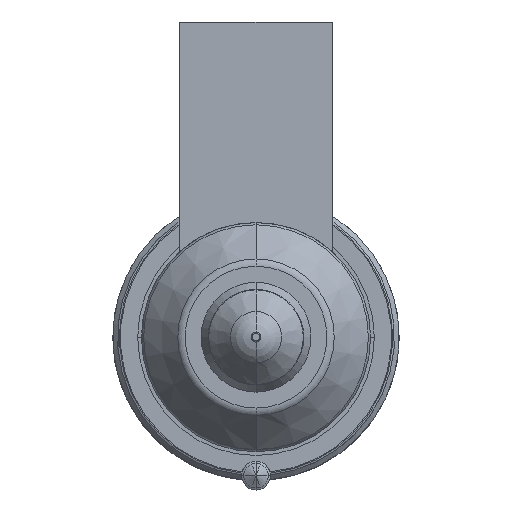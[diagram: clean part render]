
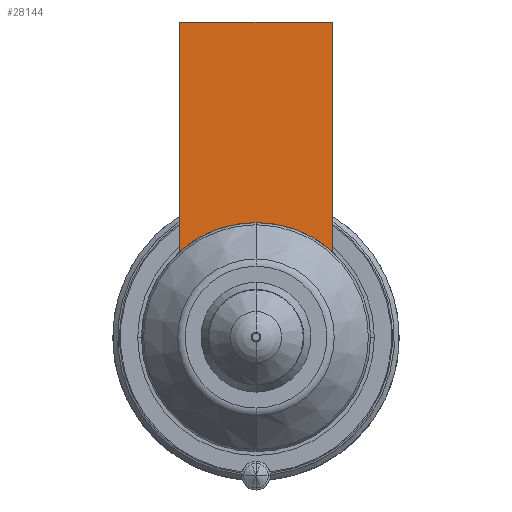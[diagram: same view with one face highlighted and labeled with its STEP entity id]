
A CAD part, front view. The second image highlights one B-rep face of the part: STEP entity #28144.
In plain terms, the highlighted planar face has unit normal (0, -1, 0).
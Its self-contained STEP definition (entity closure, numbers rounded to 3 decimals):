
#27228=DIRECTION('',(0.,0.,-1.));
#27229=VECTOR('',#27228,24.056);
#27230=CARTESIAN_POINT('',(-8.,-56.,33.));
#27231=LINE('',#27230,#27229);
#27268=DIRECTION('',(1.,0.,0.));
#27269=VECTOR('',#27268,16.);
#27270=CARTESIAN_POINT('',(-8.,-56.,33.));
#27271=LINE('',#27270,#27269);
#27275=CARTESIAN_POINT('',(0.,-56.,0.));
#27276=DIRECTION('',(0.,-1.,0.));
#27277=DIRECTION('',(0.667,0.,0.745));
#27278=AXIS2_PLACEMENT_3D('',#27275,#27276,#27277);
#27283=CARTESIAN_POINT('',(0.,-56.,0.));
#27284=DIRECTION('',(0.,-1.,0.));
#27285=DIRECTION('',(0.,0.,1.));
#27286=AXIS2_PLACEMENT_3D('',#27283,#27284,#27285);
#27319=DIRECTION('',(0.,0.,-1.));
#27320=VECTOR('',#27319,24.056);
#27321=CARTESIAN_POINT('',(8.,-56.,33.));
#27322=LINE('',#27321,#27320);
#27980=CARTESIAN_POINT('',(-8.,-56.,33.));
#27981=VERTEX_POINT('',#27980);
#27986=CARTESIAN_POINT('',(8.,-56.,33.));
#27987=VERTEX_POINT('',#27986);
#27990=CARTESIAN_POINT('',(-8.,-56.,8.944));
#27991=VERTEX_POINT('',#27990);
#27994=CARTESIAN_POINT('',(8.,-56.,8.944));
#27995=VERTEX_POINT('',#27994);
#28063=CARTESIAN_POINT('',(0.,-56.,12.));
#28064=VERTEX_POINT('',#28063);
#28129=CARTESIAN_POINT('',(-8.,-56.,33.));
#28130=DIRECTION('',(0.,-1.,0.));
#28131=DIRECTION('',(0.,0.,-1.));
#28132=AXIS2_PLACEMENT_3D('',#28129,#28130,#28131);
#28133=PLANE('',#28132);
#28134=ORIENTED_EDGE('',*,*,#28077,.F.);
#28136=ORIENTED_EDGE('',*,*,#28135,.T.);
#28138=ORIENTED_EDGE('',*,*,#28137,.T.);
#28140=ORIENTED_EDGE('',*,*,#28139,.T.);
#28141=ORIENTED_EDGE('',*,*,#28109,.T.);
#28142=EDGE_LOOP('',(#28134,#28136,#28138,#28140,#28141));
#28143=FACE_OUTER_BOUND('',#28142,.F.);
#28144=ADVANCED_FACE('',(#28143),#28133,.T.);
#27279=CIRCLE('',#27278,12.);
#27287=CIRCLE('',#27286,12.);
#28077=EDGE_CURVE('',#27981,#27991,#27231,.T.);
#28109=EDGE_CURVE('',#28064,#27991,#27287,.T.);
#28135=EDGE_CURVE('',#27981,#27987,#27271,.T.);
#28137=EDGE_CURVE('',#27987,#27995,#27322,.T.);
#28139=EDGE_CURVE('',#27995,#28064,#27279,.T.);
